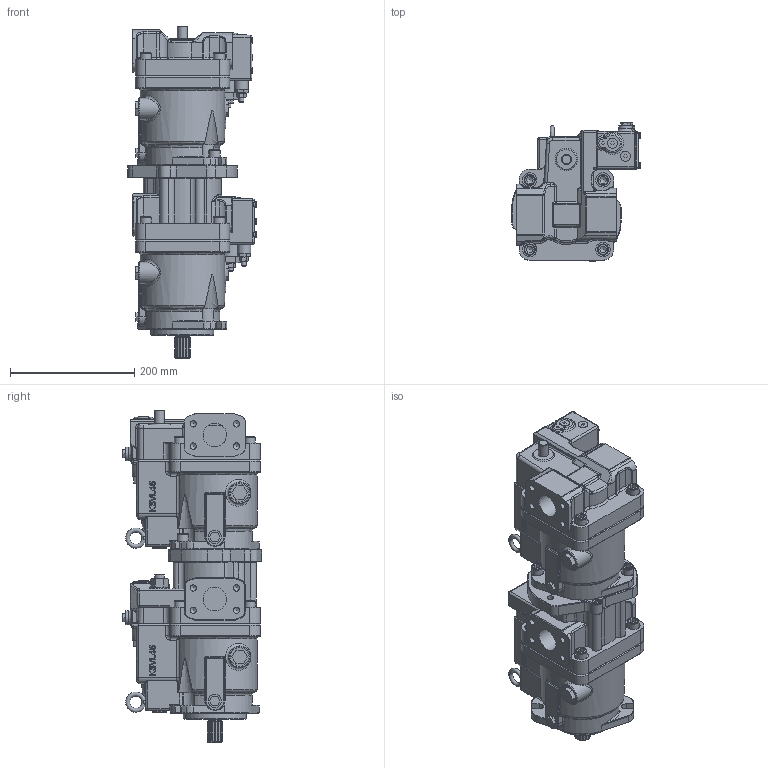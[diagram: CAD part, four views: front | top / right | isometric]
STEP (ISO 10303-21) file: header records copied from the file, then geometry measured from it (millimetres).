
FILE_DESCRIPTION((''),'2;1');
FILE_NAME('I:\Inventor\K3V, M2X\MODEL LIBRARY\K3VL60B 1BBRSM PO + K3VL60B 10RSM PO.stp','2005-12-19T10:17:24',('mnorman'),(''),'Autodesk Inventor 10','Autodesk Inventor 10','');
FILE_SCHEMA(('AUTOMOTIVE_DESIGN { 1 0 10303 214 1 1 1 1 }'));
Length unit declared in the file: millimetre
Products named in the file (1): Part1
Bounding box: 207 x 223.91 x 534.2 mm (x, y, z)
Volume: 9547285.6 mm3; surface area: 659337.8 mm2
Topology: 1 solids, 45 shells, 2423 faces, 5886 edges, 3622 vertices
Faces by surface type: plane 1033, cylinder 568, bspline 476, cone 246, torus 81, sphere 19
Full cylindrical faces by diameter (mm): 6 x8, 6.5 x8, 8 x14, 9 x2, 10 x8, 11 x8, 12 x10, 13 x4, 14 x2, 16 x7, 18 x10, 21 x2, 21.3 x2, 22 x4, 24 x2, 25 x2, 30 x8, 32 x2, 35.5 x1, 36 x2, 38 x2, 46 x1, 65 x1, 75 x1, 82.55 x2, 90 x3, 101.6 x3, 105 x2, 110 x1
Entity records: 104641 total; most frequent: CARTESIAN_POINT 53119, ORIENTED_EDGE 10680, DIRECTION 10102, EDGE_CURVE 5340, AXIS2_PLACEMENT_3D 3798, VERTEX_POINT 3451, EDGE_LOOP 2917, VECTOR 2506
